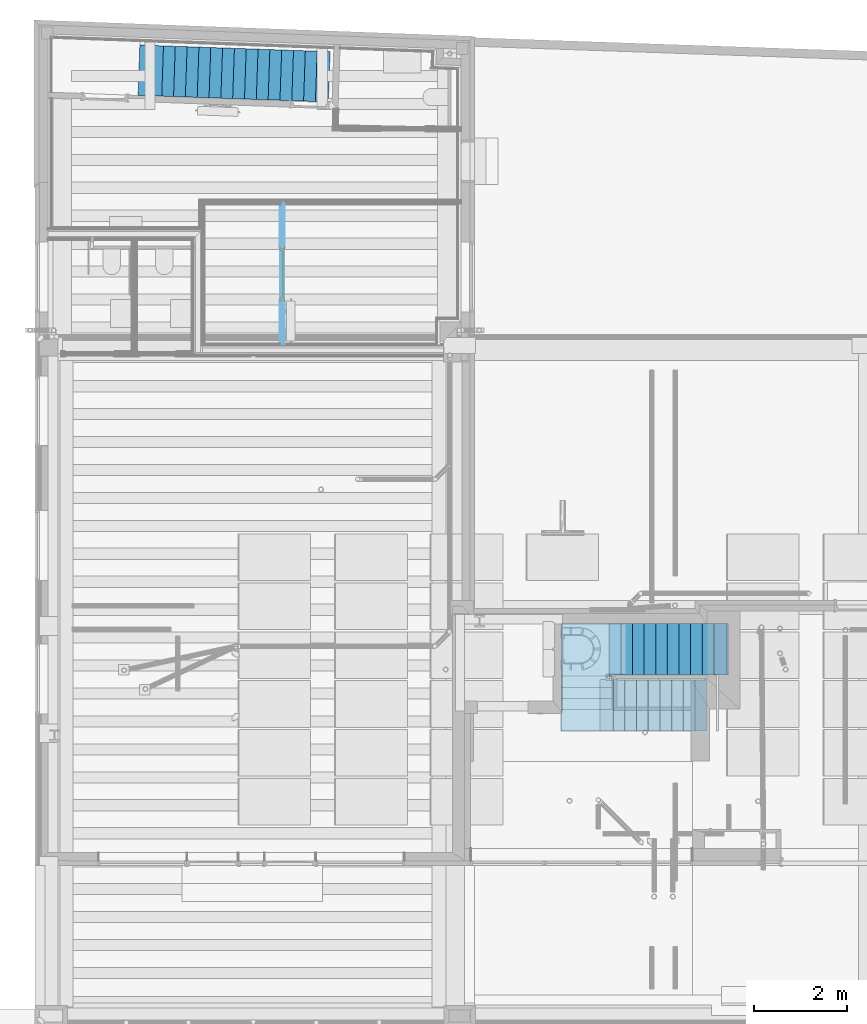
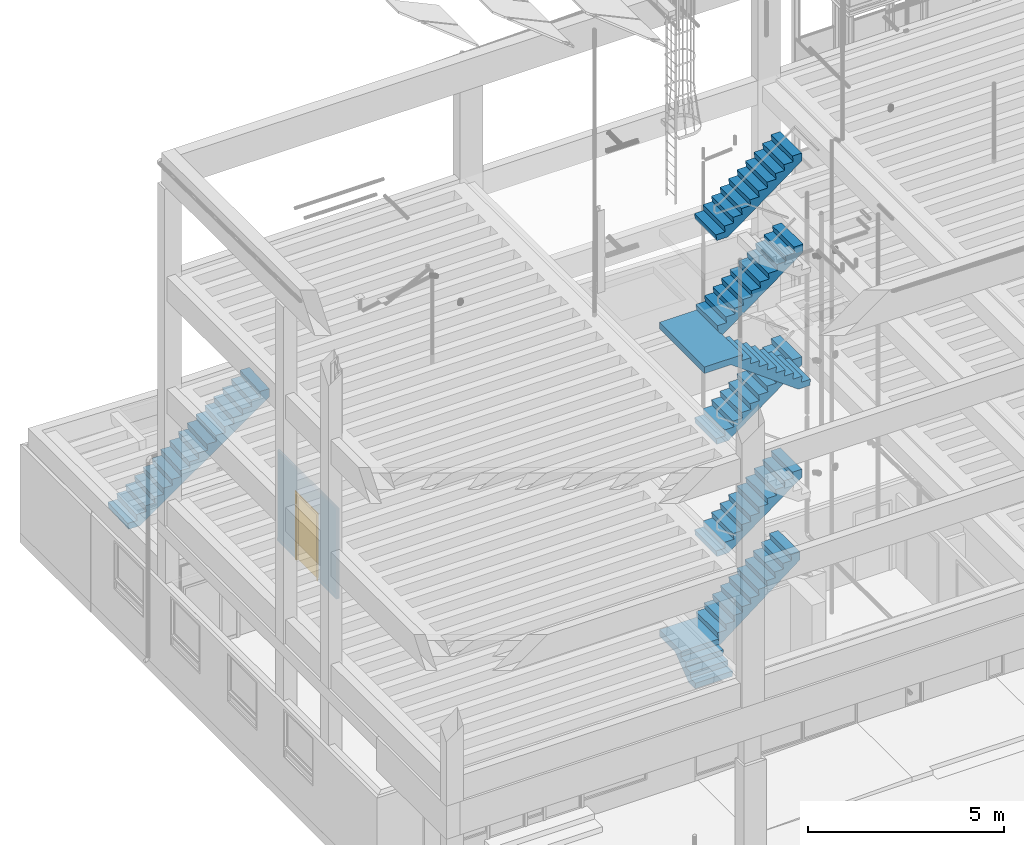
# One storey, part 25 of 108: 6 stairs, 1 door, 1 opening, 1 element without a shape of its own, plus 7 elements that do not belong to this part.
"""IFC2X3 building model written with IfcOpenShell, lengths in metres."""

from ifc_helpers import new_model, entity, si_unit, converted_unit, derived_unit, money_unit, direction, frame, frame_2d, origin_with_axes, place, context, subcontext, project, spatial, rectangle, extrude, faceted_brep, material, type_object, element, fill, aggregate, save


model = new_model("IFC2X3")

# Units and contexts
model_context = context("Model", 3, precision=1e-05, world=origin_with_axes(), true_north=direction((0.0, 1.0)))
body_context = subcontext(model_context, "Body", "Model", "MODEL_VIEW", scale=1.0)
ifc_project = project(units=[si_unit("LENGTHUNIT", "METRE"), si_unit("AREAUNIT", "SQUARE_METRE"), si_unit("VOLUMEUNIT", "CUBIC_METRE"), si_unit("ABSORBEDDOSEUNIT", "GRAY"), si_unit("AMOUNTOFSUBSTANCEUNIT", "MOLE"), si_unit("DOSEEQUIVALENTUNIT", "SIEVERT"), si_unit("ELECTRICCAPACITANCEUNIT", "FARAD"), si_unit("ELECTRICCHARGEUNIT", "COULOMB"), si_unit("ELECTRICCONDUCTANCEUNIT", "SIEMENS"), si_unit("ELECTRICCURRENTUNIT", "AMPERE"), si_unit("ELECTRICRESISTANCEUNIT", "OHM"), si_unit("ELECTRICVOLTAGEUNIT", "VOLT"), si_unit("ENERGYUNIT", "JOULE"), si_unit("FORCEUNIT", "NEWTON"), si_unit("FREQUENCYUNIT", "HERTZ"), si_unit("ILLUMINANCEUNIT", "LUX"), si_unit("INDUCTANCEUNIT", "HENRY"), si_unit("LUMINOUSFLUXUNIT", "LUMEN"), si_unit("LUMINOUSINTENSITYUNIT", "CANDELA"), si_unit("MAGNETICFLUXDENSITYUNIT", "TESLA"), si_unit("MAGNETICFLUXUNIT", "WEBER"), si_unit("MASSUNIT", "GRAM"), converted_unit("PLANEANGLEUNIT", "degree", entity("IfcReal", 0.0174532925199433), si_unit("PLANEANGLEUNIT", "RADIAN"), dimensions=[0, 0, 0, 0, 0, 0, 0]), si_unit("POWERUNIT", "WATT"), si_unit("PRESSUREUNIT", "PASCAL"), si_unit("RADIOACTIVITYUNIT", "BECQUEREL"), si_unit("SOLIDANGLEUNIT", "STERADIAN"), si_unit("THERMODYNAMICTEMPERATUREUNIT", "KELVIN"), si_unit("TIMEUNIT", "SECOND"), derived_unit("ACCELERATIONUNIT", [(si_unit("LENGTHUNIT", "METRE"), 1), (si_unit("TIMEUNIT", "SECOND"), -2)]), derived_unit("ANGULARVELOCITYUNIT", [(converted_unit("PLANEANGLEUNIT", "degree", entity("IfcReal", 0.0174532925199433), si_unit("PLANEANGLEUNIT", "RADIAN"), dimensions=[0, 0, 0, 0, 0, 0, 0]), 1), (si_unit("TIMEUNIT", "SECOND"), -1)]), derived_unit("CURVATUREUNIT", [(converted_unit("PLANEANGLEUNIT", "degree", entity("IfcReal", 0.0174532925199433), si_unit("PLANEANGLEUNIT", "RADIAN"), dimensions=[0, 0, 0, 0, 0, 0, 0]), 1), (si_unit("LENGTHUNIT", "METRE"), -1)]), derived_unit("DYNAMICVISCOSITYUNIT", [(si_unit("PRESSUREUNIT", "PASCAL"), 1), (si_unit("TIMEUNIT", "SECOND"), 1)]), derived_unit("HEATFLUXDENSITYUNIT", [(si_unit("POWERUNIT", "WATT"), 1), (si_unit("LENGTHUNIT", "METRE"), -2)]), derived_unit("HEATINGVALUEUNIT", [(si_unit("ENERGYUNIT", "JOULE"), 1), (si_unit("MASSUNIT", "GRAM"), -1)]), derived_unit("INTEGERCOUNTRATEUNIT", [(si_unit("TIMEUNIT", "SECOND"), -1)]), derived_unit("IONCONCENTRATIONUNIT", [(si_unit("MASSUNIT", "GRAM"), 1), (si_unit("VOLUMEUNIT", "CUBIC_METRE"), -1)]), derived_unit("ISOTHERMALMOISTURECAPACITYUNIT", [(si_unit("VOLUMEUNIT", "CUBIC_METRE"), 1), (si_unit("MASSUNIT", "GRAM"), -1)]), derived_unit("KINEMATICVISCOSITYUNIT", [(si_unit("AREAUNIT", "SQUARE_METRE"), 1), (si_unit("TIMEUNIT", "SECOND"), -1)]), derived_unit("LINEARFORCEUNIT", [(si_unit("FORCEUNIT", "NEWTON"), 1), (si_unit("LENGTHUNIT", "METRE"), -1)]), derived_unit("LINEARMOMENTUNIT", [(si_unit("FORCEUNIT", "NEWTON"), 1), (si_unit("LENGTHUNIT", "METRE"), -1)]), derived_unit("LINEARSTIFFNESSUNIT", [(si_unit("FORCEUNIT", "NEWTON"), 1), (si_unit("LENGTHUNIT", "METRE"), -1)]), derived_unit("LINEARVELOCITYUNIT", [(si_unit("LENGTHUNIT", "METRE"), 1), (si_unit("TIMEUNIT", "SECOND"), -1)]), derived_unit("LUMINOUSINTENSITYDISTRIBUTIONUNIT", [(si_unit("LUMINOUSINTENSITYUNIT", "CANDELA"), 1), (si_unit("LUMINOUSFLUXUNIT", "LUMEN"), -1)]), derived_unit("MASSDENSITYUNIT", [(si_unit("MASSUNIT", "GRAM"), 1), (si_unit("VOLUMEUNIT", "CUBIC_METRE"), -1)]), derived_unit("MASSFLOWRATEUNIT", [(si_unit("MASSUNIT", "GRAM"), 1), (si_unit("TIMEUNIT", "SECOND"), -1)]), derived_unit("MASSPERLENGTHUNIT", [(si_unit("MASSUNIT", "GRAM"), 1), (si_unit("LENGTHUNIT", "METRE"), -1)]), derived_unit("MODULUSOFELASTICITYUNIT", [(si_unit("FORCEUNIT", "NEWTON"), 1), (si_unit("AREAUNIT", "SQUARE_METRE"), -1)]), derived_unit("MODULUSOFLINEARSUBGRADEREACTIONUNIT", [(si_unit("FORCEUNIT", "NEWTON"), 1), (si_unit("LENGTHUNIT", "METRE"), -2)]), derived_unit("MODULUSOFROTATIONALSUBGRADEREACTIONUNIT", [(si_unit("FORCEUNIT", "NEWTON"), 1), (si_unit("LENGTHUNIT", "METRE"), 1)]), derived_unit("MODULUSOFSUBGRADEREACTIONUNIT", [(si_unit("FORCEUNIT", "NEWTON"), 1), (si_unit("VOLUMEUNIT", "CUBIC_METRE"), -1)]), derived_unit("MOISTUREDIFFUSIVITYUNIT", [(si_unit("VOLUMEUNIT", "CUBIC_METRE"), 1), (si_unit("TIMEUNIT", "SECOND"), -1)]), derived_unit("MOLECULARWEIGHTUNIT", [(si_unit("MASSUNIT", "GRAM"), 1), (si_unit("AMOUNTOFSUBSTANCEUNIT", "MOLE"), -1)]), derived_unit("PLANARFORCEUNIT", [(si_unit("FORCEUNIT", "NEWTON"), 1), (si_unit("LENGTHUNIT", "METRE"), -2)]), derived_unit("ROTATIONALFREQUENCYUNIT", [(si_unit("TIMEUNIT", "SECOND"), -1)]), derived_unit("ROTATIONALMASSUNIT", [(si_unit("MASSUNIT", "GRAM"), 1), (si_unit("LENGTHUNIT", "METRE"), 2)]), derived_unit("ROTATIONALSTIFFNESSUNIT", [(si_unit("FORCEUNIT", "NEWTON"), 1), (si_unit("LENGTHUNIT", "METRE"), 1), (converted_unit("PLANEANGLEUNIT", "degree", entity("IfcReal", 0.0174532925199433), si_unit("PLANEANGLEUNIT", "RADIAN"), dimensions=[0, 0, 0, 0, 0, 0, 0]), -1)]), derived_unit("SECTIONAREAINTEGRALUNIT", [(si_unit("LENGTHUNIT", "METRE"), 5)]), derived_unit("SECTIONMODULUSUNIT", [(si_unit("LENGTHUNIT", "METRE"), 3)]), derived_unit("SHEARMODULUSUNIT", [(si_unit("FORCEUNIT", "NEWTON"), 1), (si_unit("AREAUNIT", "SQUARE_METRE"), -1)]), derived_unit("SOUNDPOWERUNIT", [(si_unit("ENERGYUNIT", "JOULE"), 1), (si_unit("TIMEUNIT", "SECOND"), -1)]), derived_unit("SPECIFICHEATCAPACITYUNIT", [(si_unit("FORCEUNIT", "NEWTON"), 1), (si_unit("MASSUNIT", "GRAM"), -1), (si_unit("THERMODYNAMICTEMPERATUREUNIT", "KELVIN"), -1)]), derived_unit("TEMPERATUREGRADIENTUNIT", [(si_unit("THERMODYNAMICTEMPERATUREUNIT", "KELVIN"), 1), (si_unit("LENGTHUNIT", "METRE"), -1)]), derived_unit("THERMALADMITTANCEUNIT", [(si_unit("POWERUNIT", "WATT"), 1), (si_unit("AREAUNIT", "SQUARE_METRE"), -1), (si_unit("THERMODYNAMICTEMPERATUREUNIT", "KELVIN"), -1)]), derived_unit("THERMALCONDUCTANCEUNIT", [(si_unit("POWERUNIT", "WATT"), 1), (si_unit("LENGTHUNIT", "METRE"), -1), (si_unit("THERMODYNAMICTEMPERATUREUNIT", "KELVIN"), -1)]), derived_unit("THERMALEXPANSIONCOEFFICIENTUNIT", [(si_unit("THERMODYNAMICTEMPERATUREUNIT", "KELVIN"), -1)]), derived_unit("THERMALRESISTANCEUNIT", [(si_unit("AREAUNIT", "SQUARE_METRE"), 1), (si_unit("POWERUNIT", "WATT"), -1)]), derived_unit("THERMALTRANSMITTANCEUNIT", [(si_unit("POWERUNIT", "WATT"), 1), (si_unit("AREAUNIT", "SQUARE_METRE"), -1), (si_unit("THERMODYNAMICTEMPERATUREUNIT", "KELVIN"), -1)]), derived_unit("TORQUEUNIT", [(si_unit("FORCEUNIT", "NEWTON"), 1), (si_unit("LENGTHUNIT", "METRE"), 1)]), derived_unit("VAPORPERMEABILITYUNIT", [(si_unit("MASSUNIT", "GRAM"), 1), (si_unit("TIMEUNIT", "SECOND"), -1)]), derived_unit("VOLUMETRICFLOWRATEUNIT", [(si_unit("VOLUMEUNIT", "CUBIC_METRE"), 1), (si_unit("TIMEUNIT", "SECOND"), -1)]), derived_unit("WARPINGCONSTANTUNIT", [(si_unit("LENGTHUNIT", "METRE"), 6)]), derived_unit("WARPINGMOMENTUNIT", [(si_unit("FORCEUNIT", "NEWTON"), 1), (si_unit("LENGTHUNIT", "METRE"), 2)]), money_unit("GBP")], contexts=[model_context])

# Site, building, storey, space
site_placement = place(None, origin_with_axes())
site = spatial("IfcSite", under=ifc_project, at=site_placement, Name="Site", CompositionType="ELEMENT")
building_placement = place(site_placement, origin_with_axes())
building = spatial("IfcBuilding", under=site, at=building_placement, Name="Building01", CompositionType="ELEMENT")
storey_placement = place(building_placement, origin_with_axes())
storey = spatial("IfcBuildingStorey", under=building, at=storey_placement, Name="GF", CompositionType="ELEMENT", Elevation=0.0)
space_placement = place(storey_placement, frame((8.552822, 20.936203, 0.217025), z_axis=(0.0, 0.0, 1.0), x_axis=(-0.99931258, 0.03707243, 0.0)))
space = spatial("IfcSpace", under=storey, at=space_placement, Name="01", CompositionType="ELEMENT", InteriorOrExteriorSpace="NOTDEFINED")

# Door
ifc_material_1 = material(Name="A_BSUK_Doors")
door_style = type_object("IfcDoorStyle", Name="A-Doors-DoubleFlush", ConstructionType="USERDEFINED", OperationType="DOUBLE_DOOR_SINGLE_SWING", ParameterTakesPrecedence=False, Sizeable=False)
wall_placement = place(storey_placement, frame((5.301256, 17.690571, 0.148), z_axis=(0.0, 0.0, 1.0), x_axis=(0.0, -1.0, 0.0)))
opening_placement = place(wall_placement, frame((0.971779, -0.042, -4e-06), z_axis=(0.0, 0.0, 1.0), x_axis=(1.0, 0.0, 0.0)))
door_placement = place(opening_placement, frame((0.042007, 0.094997, 4e-06), z_axis=(0.0, 0.0, 1.0), x_axis=(1.0, -3.756e-05, 0.0)))
door = element("IfcDoor", 1, at=door_placement, inside=space, type_object=door_style, material=ifc_material_1, Name="0.17", ObjectType="A-Doors-DoubleFlush", OverallHeight=2.12700000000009, OverallWidth=1.17800000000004, context=body_context, shape_type="Brep", body=[
    faceted_brep([(0.0, -0.099, 2.058), (1.04, -0.099, 2.058), (1.04, -0.099, 0.0), (1.109, -0.099, 0.0), (1.109, -0.099, 2.127), (-0.069, -0.099, 2.127), (-0.069, -0.099, 0.0), (0.0, -0.099, 0.0), (1.109, -0.08, 2.127), (1.109, -0.08, 0.0), (-0.069, -0.08, 0.0), (-0.069, -0.08, 2.127), (-0.042, -0.08, 0.0), (-0.042, 0.0, 0.0), (-0.069, 0.0, 0.0), (-0.069, 0.019, 0.0), (0.0, 0.019, 0.0), (0.0, 0.019, 2.058), (1.04, 0.019, 2.058), (-0.069, 0.019, 2.127), (1.109, 0.019, 2.127), (1.109, 0.019, 0.0), (1.04, 0.019, 0.0), (-0.069, 0.0, 2.127), (-0.042, 0.0, 2.1), (-0.042, -0.08, 2.1), (1.082, 0.0, 2.1), (1.082, -0.08, 2.1), (1.082, -0.08, 0.0), (1.082, 0.0, 0.0), (1.109, 0.0, 0.0), (1.109, 0.0, 2.127)], [[[0, 1, 2, 3, 4, 5, 6, 7]], [[8, 4, 3, 9]], [[10, 6, 5, 11]], [[11, 5, 4, 8]], [[7, 6, 10, 12, 13, 14, 15, 16]], [[7, 16, 17, 0]], [[0, 17, 18, 1]], [[17, 16, 15, 19, 20, 21, 22, 18]], [[1, 18, 22, 2]], [[14, 23, 19, 15]], [[24, 13, 12, 25]], [[26, 24, 25, 27]], [[11, 8, 9, 28, 27, 25, 12, 10]], [[27, 28, 29, 26]], [[26, 29, 30, 31, 23, 14, 13, 24]], [[22, 21, 30, 29, 28, 9, 3, 2]], [[30, 21, 20, 31]], [[31, 20, 19, 23]]]),
    faceted_brep([(1.04, -0.09, 0.0), (1.04, -0.04, 0.0), (1.04, -0.04, 2.058), (1.04, -0.09, 2.058), (0.025, -0.09, 2.033), (1.015, -0.09, 2.033), (1.015, -0.09, 0.0), (0.0, -0.09, 2.058), (0.0, -0.09, 0.0), (0.025, -0.09, 0.0), (0.0, -0.04, 0.0), (0.025, -0.04, 0.0), (0.0, -0.04, 2.058), (0.025, -0.04, 2.033), (1.015, -0.04, 0.0), (1.015, -0.04, 2.033)], [[[0, 1, 2, 3]], [[4, 5, 6, 0, 3, 7, 8, 9]], [[9, 8, 10, 11]], [[3, 2, 12, 7]], [[7, 12, 10, 8]], [[13, 11, 10, 12, 2, 1, 14, 15]], [[5, 15, 14, 6]], [[14, 1, 0, 6]], [[9, 11, 13, 4]], [[4, 13, 15, 5]]]),
    faceted_brep([(0.0, -0.04, 2.058), (0.0, 0.0, 2.058), (0.0, 0.0, 0.0), (0.0, -0.04, 0.0), (0.52, -0.04, 0.0), (0.52, 0.0, 0.0), (0.52, 0.0, 2.058), (0.52, -0.04, 2.058)], [[[0, 1, 2, 3]], [[4, 5, 6, 7]], [[3, 2, 5, 4]], [[3, 4, 7, 0]], [[7, 6, 1, 0]], [[1, 6, 5, 2]]]),
    faceted_brep([(0.52, -0.04, 2.058), (0.52, 0.0, 2.058), (0.52, 0.0, 0.0), (0.52, -0.04, 0.0), (1.04, -0.04, 0.0), (1.04, 0.0, 0.0), (1.04, 0.0, 2.058), (1.04, -0.04, 2.058)], [[[0, 1, 2, 3]], [[4, 5, 6, 7]], [[3, 2, 5, 4]], [[3, 4, 7, 0]], [[7, 6, 1, 0]], [[1, 6, 5, 2]]]),
])

# Stairs
ifc_material_2 = material(Name="S_BSUK_Stairs")
stair_1_placement = place(storey_placement, frame((2.28075, 21.073751, 0.148), z_axis=(0.0, 0.0, 1.0), x_axis=(1.0, 0.0, 0.0)))
element("IfcStair", 2, at=stair_1_placement, inside=storey, material=ifc_material_2, Name="S-Stairs-ConcreteRC", ObjectType="S-Stairs-ConcreteRC", ShapeType="NOTDEFINED", context=body_context, shape_type="Brep", body=[
    faceted_brep([(4.024095, -1.220309, 2.787324), (4.024095, -1.220309, 3.037), (3.745263, -1.210632, 3.037), (3.770248, -1.211499, 2.847188), (3.491416, -1.201822, 2.847188), (3.516401, -1.202689, 2.657375), (3.237569, -1.193012, 2.657375), (3.262554, -1.193879, 2.467563), (2.983722, -1.184202, 2.467563), (3.008707, -1.185069, 2.27775), (2.729874, -1.175392, 2.27775), (2.754859, -1.176259, 2.087937), (2.476027, -1.166582, 2.087937), (2.501012, -1.167449, 1.898125), (2.22218, -1.157772, 1.898125), (2.247165, -1.158639, 1.708313), (1.968333, -1.148962, 1.708313), (1.993318, -1.149829, 1.5185), (1.714486, -1.140152, 1.5185), (1.739471, -1.14102, 1.328688), (1.460639, -1.131343, 1.328688), (1.485624, -1.13221, 1.138875), (1.206791, -1.122533, 1.138875), (1.231776, -1.1234, 0.949063), (0.952944, -1.113723, 0.949063), (0.977929, -1.11459, 0.75925), (0.699097, -1.104913, 0.75925), (0.724082, -1.10578, 0.569438), (0.44525, -1.096103, 0.569438), (0.470235, -1.09697, 0.379625), (0.191403, -1.087293, 0.379625), (0.216388, -1.08816, 0.189813), (-0.062444, -1.078483, 0.189813), (-0.037459, -1.07935, 0.0), (0.296446, -1.090939, 0.0), (4.061555, -0.140959, 2.787324), (4.061555, -0.140959, 3.037), (3.782723, -0.131282, 3.037), (3.807708, -0.132149, 2.847188), (3.528875, -0.122472, 2.847188), (3.55386, -0.123339, 2.657375), (3.275028, -0.113662, 2.657375), (3.300013, -0.114529, 2.467563), (3.021181, -0.104852, 2.467563), (3.046166, -0.105719, 2.27775), (2.767334, -0.096042, 2.27775), (2.792319, -0.096909, 2.087937), (2.513487, -0.087232, 2.087937), (2.538472, -0.088099, 1.898125), (2.25964, -0.078422, 1.898125), (2.284625, -0.079289, 1.708313), (2.005792, -0.069612, 1.708313), (2.030777, -0.070479, 1.5185), (1.751945, -0.060802, 1.5185), (1.77693, -0.061669, 1.328688), (1.498098, -0.051992, 1.328688), (1.523083, -0.052859, 1.138875), (1.244251, -0.043182, 1.138875), (1.269236, -0.04405, 0.949063), (0.990404, -0.034373, 0.949063), (1.015389, -0.03524, 0.75925), (0.736557, -0.025563, 0.75925), (0.761542, -0.02643, 0.569438), (0.482709, -0.016753, 0.569438), (0.507694, -0.01762, 0.379625), (0.228862, -0.007943, 0.379625), (0.253847, -0.00881, 0.189813), (-0.024985, 0.000867, 0.189813), (0.0, 0.0, 0.0), (0.333905, -0.011588, 0.0)], [[[0, 1, 2, 3, 4, 5, 6, 7, 8, 9, 10, 11, 12, 13, 14, 15, 16, 17, 18, 19, 20, 21, 22, 23, 24, 25, 26, 27, 28, 29, 30, 31, 32, 33, 34]], [[35, 36, 1, 0]], [[36, 37, 2, 1]], [[37, 38, 3, 2]], [[38, 39, 4, 3]], [[39, 40, 5, 4]], [[40, 41, 6, 5]], [[41, 42, 7, 6]], [[42, 43, 8, 7]], [[43, 44, 9, 8]], [[44, 45, 10, 9]], [[45, 46, 11, 10]], [[46, 47, 12, 11]], [[47, 48, 13, 12]], [[48, 49, 14, 13]], [[49, 50, 15, 14]], [[50, 51, 16, 15]], [[51, 52, 17, 16]], [[52, 53, 18, 17]], [[53, 54, 19, 18]], [[54, 55, 20, 19]], [[55, 56, 21, 20]], [[56, 57, 22, 21]], [[57, 58, 23, 22]], [[58, 59, 24, 23]], [[59, 60, 25, 24]], [[60, 61, 26, 25]], [[61, 62, 27, 26]], [[62, 63, 28, 27]], [[63, 64, 29, 28]], [[64, 65, 30, 29]], [[65, 66, 31, 30]], [[66, 67, 32, 31]], [[67, 68, 33, 32]], [[68, 69, 34, 33]], [[69, 35, 0, 34]], [[35, 69, 68, 67, 66, 65, 64, 63, 62, 61, 60, 59, 58, 57, 56, 55, 54, 53, 52, 51, 50, 49, 48, 47, 46, 45, 44, 43, 42, 41, 40, 39, 38, 37, 36]]]),
])
stair_2_placement = place(storey_placement, frame((11.3, 6.83, 0.0), z_axis=(0.0, 0.0, 1.0), x_axis=(1.0, 0.0, 0.0)))
element("IfcStair", 3, at=stair_2_placement, inside=storey, material=ifc_material_2, Name="S-Stairs-ConcreteRC", ObjectType="S-Stairs-ConcreteRC", ShapeType="NOTDEFINED", context=body_context, shape_type="Brep", body=[
    faceted_brep([(1.1, 0.0, 0.0), (1.1, 0.326806, 0.0), (1.1, 1.028345, 0.542857), (1.1, 0.72, 0.542857), (1.1, 0.72, 0.742857), (1.1, 0.695, 0.742857), (1.1, 0.72, 0.557143), (1.1, 0.455, 0.557143), (1.1, 0.48, 0.371429), (1.1, 0.215, 0.371429), (1.1, 0.24, 0.185714), (1.1, -0.025, 0.185714), (0.0, 0.0, 0.0), (0.0, 0.326806, 0.0), (0.0, 1.028345, 0.542857), (0.0, 0.72, 0.542857), (0.0, 0.72, 0.742857), (0.0, 0.695, 0.742857), (0.0, 0.72, 0.557143), (0.0, 0.455, 0.557143), (0.0, 0.48, 0.371429), (0.0, 0.215, 0.371429), (0.0, 0.24, 0.185714), (0.0, -0.025, 0.185714)], [[[0, 1, 2, 3, 4, 5, 6, 7, 8, 9, 10, 11]], [[12, 13, 1, 0]], [[13, 14, 2, 1]], [[14, 15, 3, 2]], [[15, 16, 4, 3]], [[16, 17, 5, 4]], [[17, 18, 6, 5]], [[18, 19, 7, 6]], [[19, 20, 8, 7]], [[20, 21, 9, 8]], [[21, 22, 10, 9]], [[22, 23, 11, 10]], [[23, 12, 0, 11]], [[12, 23, 22, 21, 20, 19, 18, 17, 16, 15, 14, 13]]]),
    faceted_brep([(1.1, 0.72, 0.742857), (1.1, 0.72, 0.542857), (1.168345, 0.72, 0.542857), (3.5, 0.72, 2.347114), (3.5, 0.72, 2.6), (3.235, 0.72, 2.6), (3.26, 0.72, 2.414286), (2.995, 0.72, 2.414286), (3.02, 0.72, 2.228571), (2.755, 0.72, 2.228571), (2.78, 0.72, 2.042857), (2.515, 0.72, 2.042857), (2.54, 0.72, 1.857143), (2.275, 0.72, 1.857143), (2.3, 0.72, 1.671429), (2.035, 0.72, 1.671429), (2.06, 0.72, 1.485714), (1.795, 0.72, 1.485714), (1.82, 0.72, 1.3), (1.555, 0.72, 1.3), (1.58, 0.72, 1.114286), (1.315, 0.72, 1.114286), (1.34, 0.72, 0.928571), (1.075, 0.72, 0.928571), (1.1, 1.82, 0.742857), (1.1, 1.82, 0.542857), (1.168345, 1.82, 0.542857), (3.5, 1.82, 2.347114), (3.5, 1.82, 2.6), (3.235, 1.82, 2.6), (3.26, 1.82, 2.414286), (2.995, 1.82, 2.414286), (3.02, 1.82, 2.228571), (2.755, 1.82, 2.228571), (2.78, 1.82, 2.042857), (2.515, 1.82, 2.042857), (2.54, 1.82, 1.857143), (2.275, 1.82, 1.857143), (2.3, 1.82, 1.671429), (2.035, 1.82, 1.671429), (2.06, 1.82, 1.485714), (1.795, 1.82, 1.485714), (1.82, 1.82, 1.3), (1.555, 1.82, 1.3), (1.58, 1.82, 1.114286), (1.315, 1.82, 1.114286), (1.34, 1.82, 0.928571), (1.075, 1.82, 0.928571)], [[[0, 1, 2, 3, 4, 5, 6, 7, 8, 9, 10, 11, 12, 13, 14, 15, 16, 17, 18, 19, 20, 21, 22, 23]], [[24, 25, 1, 0]], [[25, 26, 2, 1]], [[26, 27, 3, 2]], [[27, 28, 4, 3]], [[28, 29, 5, 4]], [[29, 30, 6, 5]], [[30, 31, 7, 6]], [[31, 32, 8, 7]], [[32, 33, 9, 8]], [[33, 34, 10, 9]], [[34, 35, 11, 10]], [[35, 36, 12, 11]], [[36, 37, 13, 12]], [[37, 38, 14, 13]], [[38, 39, 15, 14]], [[39, 40, 16, 15]], [[40, 41, 17, 16]], [[41, 42, 18, 17]], [[42, 43, 19, 18]], [[43, 44, 20, 19]], [[44, 45, 21, 20]], [[45, 46, 22, 21]], [[46, 47, 23, 22]], [[47, 24, 0, 23]], [[24, 47, 46, 45, 44, 43, 42, 41, 40, 39, 38, 37, 36, 35, 34, 33, 32, 31, 30, 29, 28, 27, 26, 25]]]),
    faceted_brep([(0.0, 0.72, 0.542857), (0.0, 1.82, 0.542857), (1.1, 1.82, 0.542857), (1.1, 0.72, 0.542857), (0.0, 0.72, 0.742857), (0.0, 1.82, 0.742857), (1.1, 1.82, 0.742857), (1.1, 0.72, 0.742857)], [[[0, 1, 2, 3]], [[4, 5, 1, 0]], [[5, 6, 2, 1]], [[6, 7, 3, 2]], [[7, 4, 0, 3]], [[4, 7, 6, 5]]]),
])
stair_3_placement = place(storey_placement, frame((12.359584, 8.65, 6.79), z_axis=(0.0, 0.0, 1.0), x_axis=(1.0, 0.0, 0.0)))
element("IfcStair", 4, at=stair_3_placement, inside=storey, material=ifc_material_2, Name="S-Stairs-ConcreteRC", ObjectType="S-Stairs-ConcreteRC", ShapeType="NOTDEFINED", context=body_context, shape_type="Brep", body=[
    faceted_brep([(0.0, -1.1, 0.0), (0.336223, -1.1, 0.0), (2.5, -1.1, 1.601195), (2.5, -1.1, 1.85), (2.225, -1.1, 1.85), (2.25, -1.1, 1.665), (1.975, -1.1, 1.665), (2.0, -1.1, 1.48), (1.725, -1.1, 1.48), (1.75, -1.1, 1.295), (1.475, -1.1, 1.295), (1.5, -1.1, 1.11), (1.225, -1.1, 1.11), (1.25, -1.1, 0.925), (0.975, -1.1, 0.925), (1.0, -1.1, 0.74), (0.725, -1.1, 0.74), (0.75, -1.1, 0.555), (0.475, -1.1, 0.555), (0.5, -1.1, 0.37), (0.225, -1.1, 0.37), (0.25, -1.1, 0.185), (-0.025, -1.1, 0.185), (0.0, 0.0, 0.0), (0.336223, 0.0, 0.0), (2.5, 0.0, 1.601195), (2.5, 0.0, 1.85), (2.225, 0.0, 1.85), (2.25, 0.0, 1.665), (1.975, 0.0, 1.665), (2.0, 0.0, 1.48), (1.725, 0.0, 1.48), (1.75, 0.0, 1.295), (1.475, 0.0, 1.295), (1.5, 0.0, 1.11), (1.225, 0.0, 1.11), (1.25, 0.0, 0.925), (0.975, 0.0, 0.925), (1.0, 0.0, 0.74), (0.725, 0.0, 0.74), (0.75, 0.0, 0.555), (0.475, 0.0, 0.555), (0.5, 0.0, 0.37), (0.225, 0.0, 0.37), (0.25, 0.0, 0.185), (-0.025, 0.0, 0.185)], [[[0, 1, 2, 3, 4, 5, 6, 7, 8, 9, 10, 11, 12, 13, 14, 15, 16, 17, 18, 19, 20, 21, 22]], [[23, 24, 1, 0]], [[24, 25, 2, 1]], [[25, 26, 3, 2]], [[26, 27, 4, 3]], [[27, 28, 5, 4]], [[28, 29, 6, 5]], [[29, 30, 7, 6]], [[30, 31, 8, 7]], [[31, 32, 9, 8]], [[32, 33, 10, 9]], [[33, 34, 11, 10]], [[34, 35, 12, 11]], [[35, 36, 13, 12]], [[36, 37, 14, 13]], [[37, 38, 15, 14]], [[38, 39, 16, 15]], [[39, 40, 17, 16]], [[40, 41, 18, 17]], [[41, 42, 19, 18]], [[42, 43, 20, 19]], [[43, 44, 21, 20]], [[44, 45, 22, 21]], [[45, 23, 0, 22]], [[23, 45, 44, 43, 42, 41, 40, 39, 38, 37, 36, 35, 34, 33, 32, 31, 30, 29, 28, 27, 26, 25, 24]]]),
])
stair_4_placement = place(storey_placement, frame((14.397097, 6.35, 8.64), z_axis=(0.0, 0.0, 1.0), x_axis=(1.0, 0.0, 0.0)))
element("IfcStair", 5, at=stair_4_placement, inside=storey, material=ifc_material_2, Name="S-Stairs-ConcreteRC", ObjectType="S-Stairs-ConcreteRC", ShapeType="NOTDEFINED", context=body_context, shape_type="Brep", body=[
    faceted_brep([(0.0, 1.1, 0.0), (-0.337781, 1.1, 0.0), (-2.315575, 1.1, 1.453158), (-2.0, 1.1, 1.453158), (-2.0, 1.1, 1.653158), (-1.975, 1.1, 1.653158), (-2.0, 1.1, 1.469474), (-1.725, 1.1, 1.469474), (-1.75, 1.1, 1.285789), (-1.475, 1.1, 1.285789), (-1.5, 1.1, 1.102105), (-1.225, 1.1, 1.102105), (-1.25, 1.1, 0.918421), (-0.975, 1.1, 0.918421), (-1.0, 1.1, 0.734737), (-0.725, 1.1, 0.734737), (-0.75, 1.1, 0.551053), (-0.475, 1.1, 0.551053), (-0.5, 1.1, 0.367368), (-0.225, 1.1, 0.367368), (-0.25, 1.1, 0.183684), (0.025, 1.1, 0.183684), (0.0, 0.0, 0.0), (-0.337781, 0.0, 0.0), (-2.315575, 0.0, 1.453158), (-2.0, 0.0, 1.453158), (-2.0, 0.0, 1.653158), (-1.975, 0.0, 1.653158), (-2.0, 0.0, 1.469474), (-1.725, 0.0, 1.469474), (-1.75, 0.0, 1.285789), (-1.475, 0.0, 1.285789), (-1.5, 0.0, 1.102105), (-1.225, 0.0, 1.102105), (-1.25, 0.0, 0.918421), (-0.975, 0.0, 0.918421), (-1.0, 0.0, 0.734737), (-0.725, 0.0, 0.734737), (-0.75, 0.0, 0.551053), (-0.475, 0.0, 0.551053), (-0.5, 0.0, 0.367368), (-0.225, 0.0, 0.367368), (-0.25, 0.0, 0.183684), (0.025, 0.0, 0.183684)], [[[0, 1, 2, 3, 4, 5, 6, 7, 8, 9, 10, 11, 12, 13, 14, 15, 16, 17, 18, 19, 20, 21]], [[22, 23, 1, 0]], [[23, 24, 2, 1]], [[24, 25, 3, 2]], [[25, 26, 4, 3]], [[26, 27, 5, 4]], [[27, 28, 6, 5]], [[28, 29, 7, 6]], [[29, 30, 8, 7]], [[30, 31, 9, 8]], [[31, 32, 10, 9]], [[32, 33, 11, 10]], [[33, 34, 12, 11]], [[34, 35, 13, 12]], [[35, 36, 14, 13]], [[36, 37, 15, 14]], [[37, 38, 16, 15]], [[38, 39, 17, 16]], [[39, 40, 18, 17]], [[40, 41, 19, 18]], [[41, 42, 20, 19]], [[42, 43, 21, 20]], [[43, 22, 0, 21]], [[22, 43, 42, 41, 40, 39, 38, 37, 36, 35, 34, 33, 32, 31, 30, 29, 28, 27, 26, 25, 24, 23]]]),
    faceted_brep([(-2.0, 1.2, 1.653158), (-2.0, 1.2, 1.453158), (-1.934425, 1.2, 1.453158), (0.5, 1.2, 3.24182), (0.5, 1.2, 3.49), (0.225, 1.2, 3.49), (0.25, 1.2, 3.306316), (-0.025, 1.2, 3.306316), (0.0, 1.2, 3.122632), (-0.275, 1.2, 3.122632), (-0.25, 1.2, 2.938947), (-0.525, 1.2, 2.938947), (-0.5, 1.2, 2.755263), (-0.775, 1.2, 2.755263), (-0.75, 1.2, 2.571579), (-1.025, 1.2, 2.571579), (-1.0, 1.2, 2.387895), (-1.275, 1.2, 2.387895), (-1.25, 1.2, 2.204211), (-1.525, 1.2, 2.204211), (-1.5, 1.2, 2.020526), (-1.775, 1.2, 2.020526), (-1.75, 1.2, 1.836842), (-2.025, 1.2, 1.836842), (-2.0, 2.3, 1.653158), (-2.0, 2.3, 1.453158), (-1.934425, 2.3, 1.453158), (0.5, 2.3, 3.24182), (0.5, 2.3, 3.49), (0.225, 2.3, 3.49), (0.25, 2.3, 3.306316), (-0.025, 2.3, 3.306316), (0.0, 2.3, 3.122632), (-0.275, 2.3, 3.122632), (-0.25, 2.3, 2.938947), (-0.525, 2.3, 2.938947), (-0.5, 2.3, 2.755263), (-0.775, 2.3, 2.755263), (-0.75, 2.3, 2.571579), (-1.025, 2.3, 2.571579), (-1.0, 2.3, 2.387895), (-1.275, 2.3, 2.387895), (-1.25, 2.3, 2.204211), (-1.525, 2.3, 2.204211), (-1.5, 2.3, 2.020526), (-1.775, 2.3, 2.020526), (-1.75, 2.3, 1.836842), (-2.025, 2.3, 1.836842)], [[[0, 1, 2, 3, 4, 5, 6, 7, 8, 9, 10, 11, 12, 13, 14, 15, 16, 17, 18, 19, 20, 21, 22, 23]], [[24, 25, 1, 0]], [[25, 26, 2, 1]], [[26, 27, 3, 2]], [[27, 28, 4, 3]], [[28, 29, 5, 4]], [[29, 30, 6, 5]], [[30, 31, 7, 6]], [[31, 32, 8, 7]], [[32, 33, 9, 8]], [[33, 34, 10, 9]], [[34, 35, 11, 10]], [[35, 36, 12, 11]], [[36, 37, 13, 12]], [[37, 38, 14, 13]], [[38, 39, 15, 14]], [[39, 40, 16, 15]], [[40, 41, 17, 16]], [[41, 42, 18, 17]], [[42, 43, 19, 18]], [[43, 44, 20, 19]], [[44, 45, 21, 20]], [[45, 46, 22, 21]], [[46, 47, 23, 22]], [[47, 24, 0, 23]], [[24, 47, 46, 45, 44, 43, 42, 41, 40, 39, 38, 37, 36, 35, 34, 33, 32, 31, 30, 29, 28, 27, 26, 25]]]),
    faceted_brep([(-2.0, 1.1, 1.453158), (-2.0, 0.0, 1.453158), (-3.097097, 0.0, 1.453158), (-3.097097, 2.3, 1.453158), (-2.0, 2.3, 1.453158), (-2.0, 1.2, 1.453158), (-2.0, 1.1, 1.653158), (-2.0, 0.0, 1.653158), (-3.097097, 0.0, 1.653158), (-3.097097, 2.3, 1.653158), (-2.0, 2.3, 1.653158), (-2.0, 1.2, 1.653158)], [[[0, 1, 2, 3, 4, 5]], [[6, 7, 1, 0]], [[7, 8, 2, 1]], [[8, 9, 3, 2]], [[9, 10, 4, 3]], [[10, 11, 5, 4]], [[11, 6, 0, 5]], [[6, 11, 10, 9, 8, 7]]]),
])
for number, where, z_axis, x_axis in (
    (6, (12.359584, 8.65, 3.3), (0.0, 0.0, 1.0), (1.0, 0.0, 0.0)),
    (7, (12.355, 8.65, 13.13), (0.0, 0.0, 1.0), (1.0, 0.0, 0.0)),
):
    element("IfcStair", number, at=place(storey_placement, frame(where, z_axis=z_axis, x_axis=x_axis)), inside=storey, material=ifc_material_2, Name="S-Stairs-ConcreteRC", ObjectType="S-Stairs-ConcreteRC", ShapeType="NOTDEFINED", context=body_context, shape_type="Brep", body=[
        faceted_brep([(0.0, -1.1, 0.0), (0.336223, -1.1, 0.0), (2.5, -1.1, 1.601195), (2.5, -1.1, 1.85), (2.225, -1.1, 1.85), (2.25, -1.1, 1.665), (1.975, -1.1, 1.665), (2.0, -1.1, 1.48), (1.725, -1.1, 1.48), (1.75, -1.1, 1.295), (1.475, -1.1, 1.295), (1.5, -1.1, 1.11), (1.225, -1.1, 1.11), (1.25, -1.1, 0.925), (0.975, -1.1, 0.925), (1.0, -1.1, 0.74), (0.725, -1.1, 0.74), (0.75, -1.1, 0.555), (0.475, -1.1, 0.555), (0.5, -1.1, 0.37), (0.225, -1.1, 0.37), (0.25, -1.1, 0.185), (-0.025, -1.1, 0.185), (0.0, 0.0, 0.0), (0.336223, 0.0, 0.0), (2.5, 0.0, 1.601195), (2.5, 0.0, 1.85), (2.225, 0.0, 1.85), (2.25, 0.0, 1.665), (1.975, 0.0, 1.665), (2.0, 0.0, 1.48), (1.725, 0.0, 1.48), (1.75, 0.0, 1.295), (1.475, 0.0, 1.295), (1.5, 0.0, 1.11), (1.225, 0.0, 1.11), (1.25, 0.0, 0.925), (0.975, 0.0, 0.925), (1.0, 0.0, 0.74), (0.725, 0.0, 0.74), (0.75, 0.0, 0.555), (0.475, 0.0, 0.555), (0.5, 0.0, 0.37), (0.225, 0.0, 0.37), (0.25, 0.0, 0.185), (-0.025, 0.0, 0.185)], [[[0, 1, 2, 3, 4, 5, 6, 7, 8, 9, 10, 11, 12, 13, 14, 15, 16, 17, 18, 19, 20, 21, 22]], [[23, 24, 1, 0]], [[24, 25, 2, 1]], [[25, 26, 3, 2]], [[26, 27, 4, 3]], [[27, 28, 5, 4]], [[28, 29, 6, 5]], [[29, 30, 7, 6]], [[30, 31, 8, 7]], [[31, 32, 9, 8]], [[32, 33, 10, 9]], [[33, 34, 11, 10]], [[34, 35, 12, 11]], [[35, 36, 13, 12]], [[36, 37, 14, 13]], [[37, 38, 15, 14]], [[38, 39, 16, 15]], [[39, 40, 17, 16]], [[40, 41, 18, 17]], [[41, 42, 19, 18]], [[42, 43, 20, 19]], [[43, 44, 21, 20]], [[44, 45, 22, 21]], [[45, 23, 0, 22]], [[23, 45, 44, 43, 42, 41, 40, 39, 38, 37, 36, 35, 34, 33, 32, 31, 30, 29, 28, 27, 26, 25, 24]]]),
    ])

# Wall, opening
wall_type = type_object("IfcWallType", Name="SHE_A-Walls_Type05b_Partition_80mm", PredefinedType="NOTDEFINED")
wall = element("IfcWall", 8, at=wall_placement, inside=storey, type_object=wall_type, Name="5B", ObjectType="SHE_A-Walls_Type05b_Partition_80mm")
opening = element("IfcOpeningElement", 9, at=opening_placement, cuts=wall, Name="Opening", ObjectType="Opening", context=body_context, shape_type="Brep", body=[
    faceted_brep([(1.124004, 0.015, 0.015004), (4e-06, 0.015, 0.015004), (4e-06, 0.015, 4e-06), (1.124004, 0.015, 4e-06), (1.124003, 0.0, 0.015004), (3e-06, 0.0, 0.015004), (1.124003, 0.0, 0.115004), (3e-06, 0.0, 0.115004), (1.124004, 0.03, 4e-06), (1.124004, 0.015, 0.115004), (1.124004, 0.03, 2.100004), (1.124004, 0.015, 2.100004), (4e-06, 0.015, 0.115004), (4e-06, 0.015, 2.100004), (4e-06, 0.03, 2.100004), (4e-06, 0.03, 4e-06), (1.124005, 0.042, 2.100004), (1.124006, 0.067, 2.100004), (1.124005, 0.067, 2.100004), (1.124006, 0.08, 2.100004), (1.124007, 0.095, 2.100004), (7e-06, 0.095, 2.100004), (6e-06, 0.08, 2.100004), (5e-06, 0.067, 2.100004), (6e-06, 0.067, 2.100004), (5e-06, 0.042, 2.100004), (5e-06, 0.042, 4e-06), (6e-06, 0.067, 4e-06), (5e-06, 0.067, 4e-06), (6e-06, 0.08, 4e-06), (7e-06, 0.095, 4e-06), (1.124007, 0.095, 4e-06), (1.124006, 0.08, 4e-06), (1.124005, 0.067, 4e-06), (1.124006, 0.067, 4e-06), (1.124005, 0.042, 4e-06), (7e-06, 0.095, 0.115004), (8e-06, 0.11, 0.115004), (8e-06, 0.11, 0.015004), (7e-06, 0.095, 0.015004), (1.124007, 0.095, 0.015004), (1.124008, 0.11, 0.015004), (1.124008, 0.11, 0.115004), (1.124007, 0.095, 0.115004)], [[[0, 1, 2, 3]], [[0, 4, 5, 1]], [[4, 6, 7, 5]], [[0, 3, 8, 9]], [[8, 10, 11, 9]], [[9, 6, 4, 0]], [[12, 13, 14, 15]], [[1, 5, 7, 12]], [[12, 15, 2, 1]], [[6, 9, 12, 7]], [[9, 11, 13, 12]], [[11, 10, 16, 17, 18, 19, 19, 20, 21, 22, 22, 23, 24, 25, 14, 13]], [[15, 26, 27, 28, 29, 29, 30, 31, 32, 32, 33, 34, 35, 8, 3, 2]], [[8, 35, 16, 10]], [[35, 34, 17, 16]], [[33, 18, 17, 34]], [[33, 32, 19, 18]], [[19, 32, 32, 19]], [[14, 25, 26, 15]], [[25, 24, 27, 26]], [[27, 24, 23, 28]], [[23, 22, 29, 28]], [[22, 29, 29, 22]], [[22, 21, 36, 37, 38, 39, 30, 29]], [[32, 31, 40, 41, 42, 43, 20, 19]], [[36, 21, 20, 43]], [[43, 42, 37, 36]], [[42, 41, 38, 37]], [[41, 40, 39, 38]], [[39, 40, 31, 30]]]),
])

fill(opening, door)

# Building element part
ifc_material_3 = material(Name="A_BSUK_Walls_Timber")
placement = place(wall_placement, origin_with_axes())
building_element_part_1 = element("IfcBuildingElementPart", 10, at=placement, material=ifc_material_3, Name="1", context=body_context, shape_type="SweptSolid", body=[
    extrude(rectangle(XDim=2.983571, YDim=0.015, at=frame_2d((1.533786, -0.0345), x_axis=(-1.0, 0.0))), frame((0.0, 0.0, 0.015), z_axis=(0.0, 0.0, 1.0), x_axis=(1.0, 0.0, 0.0)), (0.0, 0.0, 1.0), 0.1),
])

ifc_material_4 = material(Name="A_BSUK_WallInternal_Finishes_Plasterboard")
building_element_part_2 = element("IfcBuildingElementPart", 11, at=placement, material=ifc_material_4, Name="2", context=body_context, shape_type="SweptSolid", body=[
    extrude(rectangle(XDim=3.013571, YDim=0.015, at=frame_2d((1.533786, -0.0195), x_axis=(-1.0, 0.0))), origin_with_axes(), (0.0, 0.0, 1.0), 2.812),
])

ifc_material_5 = material(Name="Air Cavity")
building_element_part_3 = element("IfcBuildingElementPart", 12, at=placement, material=ifc_material_5, Name="3", context=body_context, shape_type="SweptSolid", body=[
    extrude(rectangle(XDim=3.013571, YDim=0.012, at=frame_2d((1.533786, -0.006), x_axis=(-1.0, 0.0))), origin_with_axes(), (0.0, 0.0, 1.0), 2.812),
])

ifc_material_6 = material(Name="A_BSUK_Insulation")
building_element_part_4 = element("IfcBuildingElementPart", 13, at=placement, material=ifc_material_6, Name="4", context=body_context, shape_type="SweptSolid", body=[
    extrude(rectangle(XDim=3.040571, YDim=0.025, at=frame_2d((1.520286, 0.0125), x_axis=(-1.0, 0.0))), origin_with_axes(), (0.0, 0.0, 1.0), 2.812),
])

building_element_part_5 = element("IfcBuildingElementPart", 14, at=placement, material=ifc_material_5, Name="5", context=body_context, shape_type="SweptSolid", body=[
    extrude(rectangle(XDim=3.040571, YDim=0.013, at=frame_2d((1.520286, 0.0315), x_axis=(-1.0, 0.0))), origin_with_axes(), (0.0, 0.0, 1.0), 2.812),
])

building_element_part_6 = element("IfcBuildingElementPart", 15, at=placement, material=ifc_material_4, Name="6", context=body_context, shape_type="SweptSolid", body=[
    extrude(rectangle(XDim=3.013571, YDim=0.015, at=frame_2d((1.533786, 0.0455), x_axis=(-1.0, 0.0))), origin_with_axes(), (0.0, 0.0, 1.0), 2.812),
])

building_element_part_7 = element("IfcBuildingElementPart", 16, at=placement, material=ifc_material_3, Name="7", context=body_context, shape_type="SweptSolid", body=[
    extrude(rectangle(XDim=2.983571, YDim=0.015, at=frame_2d((1.533786, 0.0605), x_axis=(-1.0, 0.0))), frame((0.0, 0.0, 0.015), z_axis=(0.0, 0.0, 1.0), x_axis=(1.0, 0.0, 0.0)), (0.0, 0.0, 1.0), 0.1),
])

aggregate(wall, [building_element_part_1, building_element_part_2, building_element_part_3, building_element_part_4, building_element_part_5, building_element_part_6, building_element_part_7])

save(model, "model.ifc")
